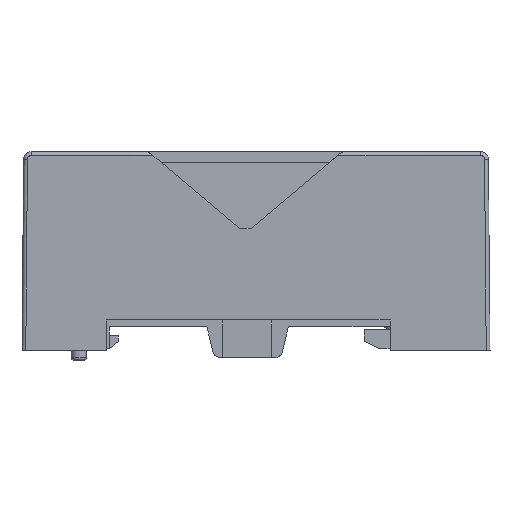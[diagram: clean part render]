
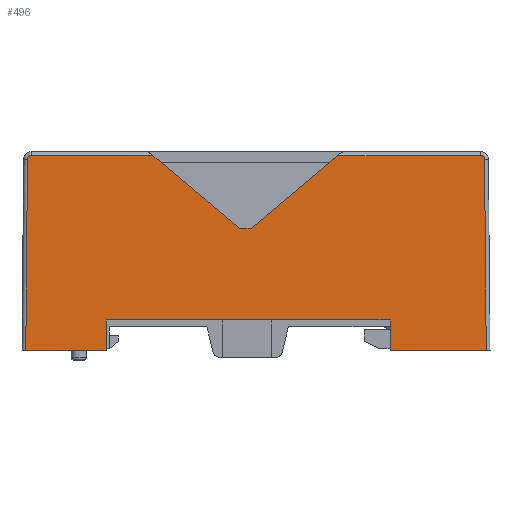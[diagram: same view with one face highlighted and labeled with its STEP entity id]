
A CAD part, left-side view. The second image highlights one B-rep face of the part: STEP entity #496.
In plain terms, the highlighted planar face has unit normal (-1, 0, 0).
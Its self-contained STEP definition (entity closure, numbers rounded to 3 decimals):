
#50 = LINE ( 'NONE', #5915, #11393 ) ;
#294 = VERTEX_POINT ( 'NONE', #7328 ) ;
#426 = VERTEX_POINT ( 'NONE', #18874 ) ;
#496 = ADVANCED_FACE ( 'NONE', ( #948 ), #3948, .F. ) ;
#515 = VERTEX_POINT ( 'NONE', #10095 ) ;
#519 = LINE ( 'NONE', #7988, #1209 ) ;
#602 = VECTOR ( 'NONE', #13734, 1000. ) ;
#760 = CARTESIAN_POINT ( 'NONE',  ( 0., 0.733, 28.031 ) ) ;
#948 = FACE_OUTER_BOUND ( 'NONE', #1019, .T. ) ;
#959 = DIRECTION ( 'NONE',  ( 0., 0., -1. ) ) ;
#1019 = EDGE_LOOP ( 'NONE', ( #9378, #10793, #10467, #15172, #11558, #6229, #9070, #14780, #15295, #17062, #11241, #8231, #10876, #14177 ) ) ;
#1209 = VECTOR ( 'NONE', #6388, 1000. ) ;
#1316 = LINE ( 'NONE', #10648, #8294 ) ;
#1789 = VERTEX_POINT ( 'NONE', #2337 ) ;
#2078 = CARTESIAN_POINT ( 'NONE',  ( 0., 61.8, 1.3 ) ) ;
#2080 = VERTEX_POINT ( 'NONE', #17825 ) ;
#2133 = VERTEX_POINT ( 'NONE', #15957 ) ;
#2165 = CARTESIAN_POINT ( 'NONE',  ( 0., 60.58, 27. ) ) ;
#2333 = VERTEX_POINT ( 'NONE', #3869 ) ;
#2337 = CARTESIAN_POINT ( 'NONE',  ( 0., 50.701, 1.3 ) ) ;
#2438 = VECTOR ( 'NONE', #3449, 1000. ) ;
#2648 = DIRECTION ( 'NONE',  ( 0., 1., 0. ) ) ;
#2652 = CARTESIAN_POINT ( 'NONE',  ( 0., 61.3, 1.3 ) ) ;
#2997 = CARTESIAN_POINT ( 'NONE',  ( 0., 61.8, 1.3 ) ) ;
#3449 = DIRECTION ( 'NONE',  ( 0., 0.009, 1. ) ) ;
#3486 = EDGE_CURVE ( 'NONE', #6057, #2133, #18015, .T. ) ;
#3869 = CARTESIAN_POINT ( 'NONE',  ( 0., 33.063, 17.4 ) ) ;
#3948 = PLANE ( 'NONE',  #5274 ) ;
#4122 = EDGE_CURVE ( 'NONE', #426, #294, #19191, .T. ) ;
#4371 = VECTOR ( 'NONE', #8107, 1000. ) ;
#5274 = AXIS2_PLACEMENT_3D ( 'NONE', #5436, #6827, #2648 ) ;
#5436 = CARTESIAN_POINT ( 'NONE',  ( 0., 61.571, 27.5 ) ) ;
#5590 = CARTESIAN_POINT ( 'NONE',  ( 0., 44.504, 27. ) ) ;
#5730 = VECTOR ( 'NONE', #15159, 1000. ) ;
#5915 = CARTESIAN_POINT ( 'NONE',  ( 0., 61.571, 27. ) ) ;
#6057 = VERTEX_POINT ( 'NONE', #11616 ) ;
#6229 = ORIENTED_EDGE ( 'NONE', *, *, #18698, .T. ) ;
#6319 = EDGE_CURVE ( 'NONE', #2133, #12379, #8327, .T. ) ;
#6332 = CIRCLE ( 'NONE', #17470, 0.5 ) ;
#6388 = DIRECTION ( 'NONE',  ( 0., -1., 0. ) ) ;
#6827 = DIRECTION ( 'NONE',  ( 1., 0., 0. ) ) ;
#6907 = CARTESIAN_POINT ( 'NONE',  ( 0., 60.58, 26.5 ) ) ;
#7157 = DIRECTION ( 'NONE',  ( -1., 0., 0. ) ) ;
#7328 = CARTESIAN_POINT ( 'NONE',  ( 0., 31.537, 17.4 ) ) ;
#7690 = DIRECTION ( 'NONE',  ( 0., 0.009, -1. ) ) ;
#7716 = EDGE_CURVE ( 'NONE', #1789, #515, #9080, .T. ) ;
#7988 = CARTESIAN_POINT ( 'NONE',  ( 0., 33.063, 17.4 ) ) ;
#8107 = DIRECTION ( 'NONE',  ( 0., 1., 0. ) ) ;
#8150 = DIRECTION ( 'NONE',  ( 0., -1., 0. ) ) ;
#8231 = ORIENTED_EDGE ( 'NONE', *, *, #6319, .T. ) ;
#8294 = VECTOR ( 'NONE', #19524, 1000. ) ;
#8327 = LINE ( 'NONE', #760, #2438 ) ;
#8521 = CARTESIAN_POINT ( 'NONE',  ( 0., 13.201, 5.3 ) ) ;
#8924 = VERTEX_POINT ( 'NONE', #2652 ) ;
#9070 = ORIENTED_EDGE ( 'NONE', *, *, #10872, .T. ) ;
#9080 = LINE ( 'NONE', #10584, #5730 ) ;
#9378 = ORIENTED_EDGE ( 'NONE', *, *, #4122, .T. ) ;
#9887 = DIRECTION ( 'NONE',  ( -1., 0., 0. ) ) ;
#9935 = VECTOR ( 'NONE', #17684, 1000. ) ;
#10039 = EDGE_CURVE ( 'NONE', #515, #15914, #1316, .T. ) ;
#10095 = CARTESIAN_POINT ( 'NONE',  ( 0., 50.701, 5.3 ) ) ;
#10431 = CIRCLE ( 'NONE', #12334, 0.5 ) ;
#10467 = ORIENTED_EDGE ( 'NONE', *, *, #12345, .T. ) ;
#10584 = CARTESIAN_POINT ( 'NONE',  ( 0., 50.701, 27.5 ) ) ;
#10648 = CARTESIAN_POINT ( 'NONE',  ( 0., 61.571, 5.3 ) ) ;
#10793 = ORIENTED_EDGE ( 'NONE', *, *, #16511, .F. ) ;
#10810 = DIRECTION ( 'NONE',  ( 0., 0.766, 0.643 ) ) ;
#10872 = EDGE_CURVE ( 'NONE', #8924, #1789, #15721, .T. ) ;
#10876 = ORIENTED_EDGE ( 'NONE', *, *, #18366, .T. ) ;
#11241 = ORIENTED_EDGE ( 'NONE', *, *, #3486, .T. ) ;
#11393 = VECTOR ( 'NONE', #16768, 1000. ) ;
#11558 = ORIENTED_EDGE ( 'NONE', *, *, #15087, .T. ) ;
#11608 = CARTESIAN_POINT ( 'NONE',  ( 0., 19.5, 27.5 ) ) ;
#11616 = CARTESIAN_POINT ( 'NONE',  ( 0., 13.201, 1.3 ) ) ;
#11925 = VECTOR ( 'NONE', #8150, 1000. ) ;
#12262 = CARTESIAN_POINT ( 'NONE',  ( 0., 61.3, 1.296 ) ) ;
#12306 = LINE ( 'NONE', #18375, #16833 ) ;
#12334 = AXIS2_PLACEMENT_3D ( 'NONE', #13320, #7157, #16608 ) ;
#12345 = EDGE_CURVE ( 'NONE', #2333, #17799, #12306, .T. ) ;
#12379 = VERTEX_POINT ( 'NONE', #16095 ) ;
#12682 = LINE ( 'NONE', #15774, #4371 ) ;
#13192 = LINE ( 'NONE', #16086, #13968 ) ;
#13320 = CARTESIAN_POINT ( 'NONE',  ( 0., 1.22, 26.5 ) ) ;
#13734 = DIRECTION ( 'NONE',  ( 0., -1., 0. ) ) ;
#13968 = VECTOR ( 'NONE', #959, 1000. ) ;
#14177 = ORIENTED_EDGE ( 'NONE', *, *, #16125, .T. ) ;
#14672 = DIRECTION ( 'NONE',  ( 0., 1., 0. ) ) ;
#14723 = EDGE_CURVE ( 'NONE', #15914, #6057, #13192, .T. ) ;
#14780 = ORIENTED_EDGE ( 'NONE', *, *, #7716, .T. ) ;
#15087 = EDGE_CURVE ( 'NONE', #16969, #2080, #6332, .T. ) ;
#15159 = DIRECTION ( 'NONE',  ( 0., 0., 1. ) ) ;
#15172 = ORIENTED_EDGE ( 'NONE', *, *, #17228, .T. ) ;
#15208 = VECTOR ( 'NONE', #7690, 1000. ) ;
#15295 = ORIENTED_EDGE ( 'NONE', *, *, #10039, .T. ) ;
#15558 = CARTESIAN_POINT ( 'NONE',  ( 0., 1.22, 27. ) ) ;
#15721 = LINE ( 'NONE', #2078, #11925 ) ;
#15774 = CARTESIAN_POINT ( 'NONE',  ( 0., 61.571, 27. ) ) ;
#15914 = VERTEX_POINT ( 'NONE', #8521 ) ;
#15957 = CARTESIAN_POINT ( 'NONE',  ( 0., 0.5, 1.3 ) ) ;
#16086 = CARTESIAN_POINT ( 'NONE',  ( 0., 13.201, 27.5 ) ) ;
#16095 = CARTESIAN_POINT ( 'NONE',  ( 0., 0.72, 26.504 ) ) ;
#16125 = EDGE_CURVE ( 'NONE', #17648, #426, #12682, .T. ) ;
#16461 = LINE ( 'NONE', #12262, #15208 ) ;
#16511 = EDGE_CURVE ( 'NONE', #2333, #294, #519, .T. ) ;
#16608 = DIRECTION ( 'NONE',  ( 0., 1., 0. ) ) ;
#16768 = DIRECTION ( 'NONE',  ( 0., 1., 0. ) ) ;
#16833 = VECTOR ( 'NONE', #10810, 1000. ) ;
#16969 = VERTEX_POINT ( 'NONE', #2165 ) ;
#17062 = ORIENTED_EDGE ( 'NONE', *, *, #14723, .T. ) ;
#17228 = EDGE_CURVE ( 'NONE', #17799, #16969, #50, .T. ) ;
#17470 = AXIS2_PLACEMENT_3D ( 'NONE', #6907, #9887, #14672 ) ;
#17648 = VERTEX_POINT ( 'NONE', #15558 ) ;
#17684 = DIRECTION ( 'NONE',  ( 0., 0.766, -0.643 ) ) ;
#17799 = VERTEX_POINT ( 'NONE', #5590 ) ;
#17825 = CARTESIAN_POINT ( 'NONE',  ( 0., 61.08, 26.504 ) ) ;
#18015 = LINE ( 'NONE', #2997, #602 ) ;
#18366 = EDGE_CURVE ( 'NONE', #12379, #17648, #10431, .T. ) ;
#18375 = CARTESIAN_POINT ( 'NONE',  ( 0., 33.182, 17.5 ) ) ;
#18698 = EDGE_CURVE ( 'NONE', #2080, #8924, #16461, .T. ) ;
#18874 = CARTESIAN_POINT ( 'NONE',  ( 0., 20.096, 27. ) ) ;
#19191 = LINE ( 'NONE', #11608, #9935 ) ;
#19524 = DIRECTION ( 'NONE',  ( 0., -1., 0. ) ) ;
